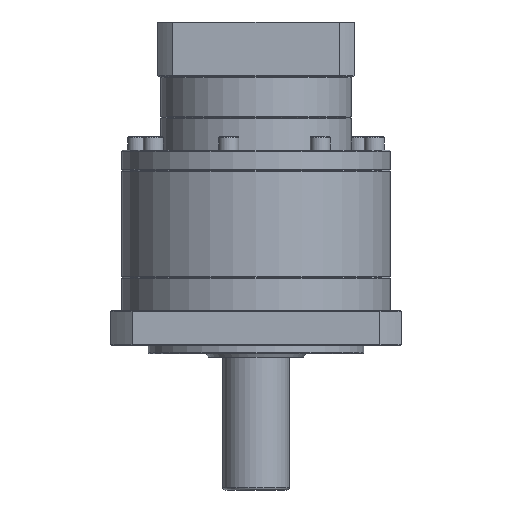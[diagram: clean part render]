
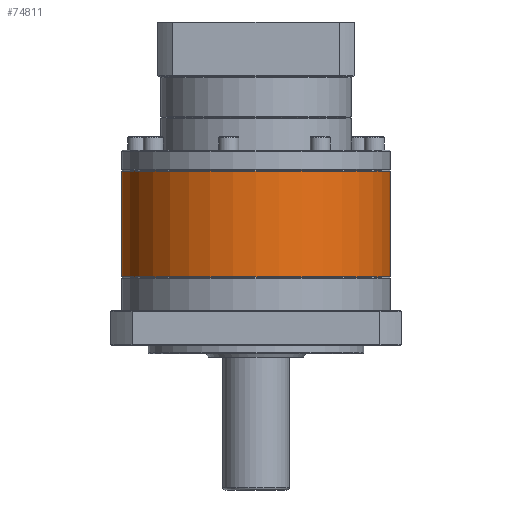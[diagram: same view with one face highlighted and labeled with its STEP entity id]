
A CAD part, front view. The second image highlights one B-rep face of the part: STEP entity #74811.
In plain terms, the highlighted cylindrical face has radius 81 mm (diameter 162 mm), a partial arc.
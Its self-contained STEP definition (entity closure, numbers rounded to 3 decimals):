
#82 = DIRECTION ( 'NONE',  ( 0., 0., -1. ) ) ;
#2117 = EDGE_CURVE ( 'NONE', #60046, #43787, #74300, .T. ) ;
#6106 = CIRCLE ( 'NONE', #44082, 81. ) ;
#6578 = CARTESIAN_POINT ( 'NONE',  ( -42.839, 0., 59.8 ) ) ;
#12603 = DIRECTION ( 'NONE',  ( 0., 0., -1. ) ) ;
#12768 = CARTESIAN_POINT ( 'NONE',  ( 38.161, 0., -3.7 ) ) ;
#15076 = EDGE_CURVE ( 'NONE', #60046, #98836, #91722, .T. ) ;
#23812 = FACE_OUTER_BOUND ( 'NONE', #93982, .T. ) ;
#25518 = CARTESIAN_POINT ( 'NONE',  ( 38.161, 0., 59.8 ) ) ;
#25946 = AXIS2_PLACEMENT_3D ( 'NONE', #25518, #82, #75943 ) ;
#27458 = DIRECTION ( 'NONE',  ( 0., 0., -1. ) ) ;
#29035 = CARTESIAN_POINT ( 'NONE',  ( 119.161, 0., 59.8 ) ) ;
#30781 = ORIENTED_EDGE ( 'NONE', *, *, #2117, .T. ) ;
#36563 = DIRECTION ( 'NONE',  ( 0., 0., -1. ) ) ;
#40531 = VERTEX_POINT ( 'NONE', #42131 ) ;
#42131 = CARTESIAN_POINT ( 'NONE',  ( -42.839, 0., -3.7 ) ) ;
#43787 = VERTEX_POINT ( 'NONE', #6578 ) ;
#44082 = AXIS2_PLACEMENT_3D ( 'NONE', #12768, #45318, #62638 ) ;
#45318 = DIRECTION ( 'NONE',  ( 0., 0., 1. ) ) ;
#46118 = CARTESIAN_POINT ( 'NONE',  ( 119.161, 0., -3.7 ) ) ;
#52116 = EDGE_CURVE ( 'NONE', #40531, #98836, #6106, .T. ) ;
#60046 = VERTEX_POINT ( 'NONE', #29035 ) ;
#62638 = DIRECTION ( 'NONE',  ( -1., 0., 0. ) ) ;
#65987 = ORIENTED_EDGE ( 'NONE', *, *, #15076, .F. ) ;
#73757 = EDGE_CURVE ( 'NONE', #43787, #40531, #100300, .T. ) ;
#74300 = CIRCLE ( 'NONE', #25946, 81. ) ;
#74811 = ADVANCED_FACE ( 'NONE', ( #23812 ), #83134, .T. ) ;
#74818 = VECTOR ( 'NONE', #12603, 1000. ) ;
#75622 = VECTOR ( 'NONE', #36563, 1000. ) ;
#75943 = DIRECTION ( 'NONE',  ( -1., 0., 0. ) ) ;
#83134 = CYLINDRICAL_SURFACE ( 'NONE', #98935, 81. ) ;
#86698 = CARTESIAN_POINT ( 'NONE',  ( 119.161, 0., 60.3 ) ) ;
#90874 = ORIENTED_EDGE ( 'NONE', *, *, #73757, .T. ) ;
#91722 = LINE ( 'NONE', #86698, #74818 ) ;
#93187 = CARTESIAN_POINT ( 'NONE',  ( 38.161, 0., 60.3 ) ) ;
#93326 = CARTESIAN_POINT ( 'NONE',  ( -42.839, 0., 60.3 ) ) ;
#93982 = EDGE_LOOP ( 'NONE', ( #65987, #30781, #90874, #95858 ) ) ;
#95858 = ORIENTED_EDGE ( 'NONE', *, *, #52116, .T. ) ;
#98836 = VERTEX_POINT ( 'NONE', #46118 ) ;
#98935 = AXIS2_PLACEMENT_3D ( 'NONE', #93187, #27458, #107271 ) ;
#100300 = LINE ( 'NONE', #93326, #75622 ) ;
#107271 = DIRECTION ( 'NONE',  ( -1., 0., 0. ) ) ;
